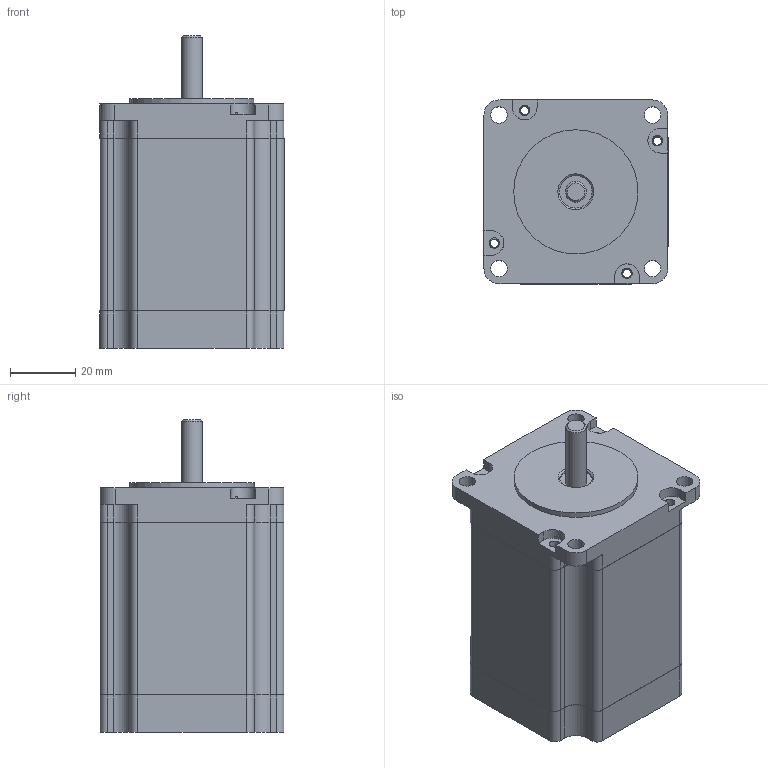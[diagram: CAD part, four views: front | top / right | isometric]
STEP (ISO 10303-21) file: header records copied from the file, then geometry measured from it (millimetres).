
FILE_DESCRIPTION(/* description */ (''),/* implementation_level */ '2;1');
FILE_NAME(/* name */ 'C:\Users\raffaele\Downloads\Projects\E&D\ipt-to-step-conversion\SLDPRT to STP\57SH76.stp',/* time_stamp */ '2021-04-07T17:16:26+02:00',/* author */ ('raffaele'),/* organization */ (''),/* preprocessor_version */ 'ST-DEVELOPER v18.1',/* originating_system */ 'Autodesk Inventor 2021',/* authorisation */ '');
FILE_SCHEMA (('AUTOMOTIVE_DESIGN { 1 0 10303 214 3 1 1 }'));
Length unit declared in the file: inch
Products named in the file (1): 57SH76
Bounding box: 56.51 x 56.44 x 96 mm (x, y, z)
Surface area: 27485.8 mm2 (no closed solid volume)
Topology: 0 solids, 6 shells, 125 faces, 393 edges, 274 vertices
Faces by surface type: plane 62, cylinder 61, cone 2
Full cylindrical faces by diameter (mm): 2.5 x4, 3.2 x4, 5 x4, 6.35 x1, 10 x1, 11 x1, 33.35 x1, 38.1 x1
Entity records: 4710 total; most frequent: DIRECTION 810, CARTESIAN_POINT 793, ORIENTED_EDGE 733, EDGE_CURVE 393, AXIS2_PLACEMENT_3D 291, VERTEX_POINT 274, LINE 228, VECTOR 228
